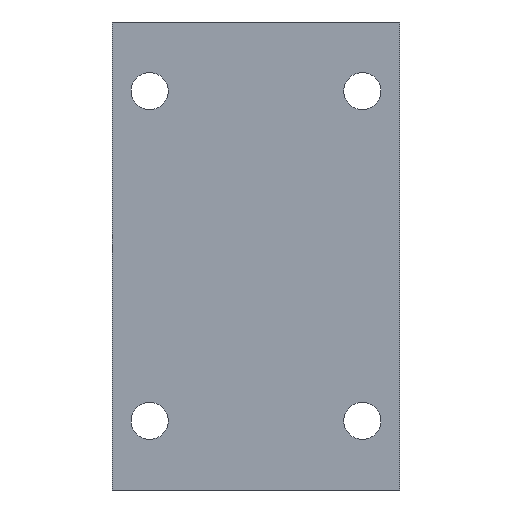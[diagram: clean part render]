
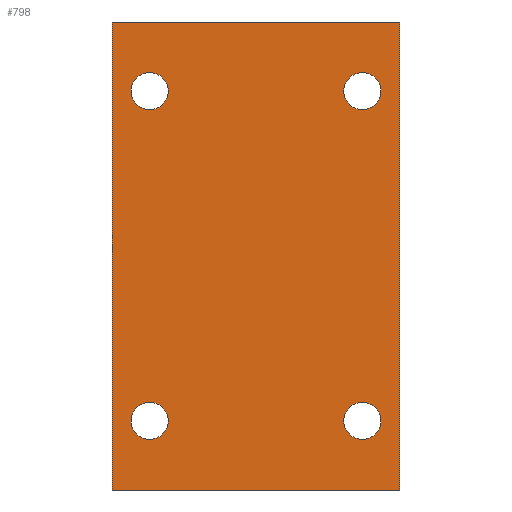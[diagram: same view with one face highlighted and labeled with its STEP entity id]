
A CAD part, front view. The second image highlights one B-rep face of the part: STEP entity #798.
In plain terms, the highlighted planar face has unit normal (0, -1, 0).
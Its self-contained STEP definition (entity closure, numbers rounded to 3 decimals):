
#3 = DIRECTION ( 'NONE',  ( 0., 0., -1. ) ) ;
#29 = DIRECTION ( 'NONE',  ( 0., 0., -1. ) ) ;
#38 = VECTOR ( 'NONE', #2161, 1000. ) ;
#50 = VERTEX_POINT ( 'NONE', #1291 ) ;
#79 = CARTESIAN_POINT ( 'NONE',  ( -40., -38.5, -62. ) ) ;
#88 = AXIS2_PLACEMENT_3D ( 'NONE', #79, #2087, #611 ) ;
#122 = AXIS2_PLACEMENT_3D ( 'NONE', #1069, #1823, #2343 ) ;
#125 = CARTESIAN_POINT ( 'NONE',  ( -54., -38.5, -88. ) ) ;
#148 = PLANE ( 'NONE',  #122 ) ;
#186 = VERTEX_POINT ( 'NONE', #364 ) ;
#193 = DIRECTION ( 'NONE',  ( 0., 0., -1. ) ) ;
#202 = AXIS2_PLACEMENT_3D ( 'NONE', #1894, #1186, #1568 ) ;
#260 = ORIENTED_EDGE ( 'NONE', *, *, #2279, .F. ) ;
#270 = EDGE_CURVE ( 'NONE', #2214, #2173, #1651, .T. ) ;
#311 = VERTEX_POINT ( 'NONE', #1538 ) ;
#320 = VERTEX_POINT ( 'NONE', #1920 ) ;
#325 = ORIENTED_EDGE ( 'NONE', *, *, #1495, .F. ) ;
#336 = ORIENTED_EDGE ( 'NONE', *, *, #270, .F. ) ;
#338 = CARTESIAN_POINT ( 'NONE',  ( 40., -38.5, 69. ) ) ;
#355 = FACE_BOUND ( 'NONE', #970, .T. ) ;
#364 = CARTESIAN_POINT ( 'NONE',  ( 54., -38.5, 88. ) ) ;
#369 = EDGE_CURVE ( 'NONE', #186, #1220, #1884, .T. ) ;
#430 = DIRECTION ( 'NONE',  ( 0., 0., -1. ) ) ;
#445 = EDGE_CURVE ( 'NONE', #320, #186, #595, .T. ) ;
#466 = EDGE_LOOP ( 'NONE', ( #2223, #2159, #1171, #820 ) ) ;
#490 = VECTOR ( 'NONE', #617, 1000. ) ;
#526 = FACE_BOUND ( 'NONE', #2179, .T. ) ;
#535 = EDGE_LOOP ( 'NONE', ( #260, #1687 ) ) ;
#567 = CARTESIAN_POINT ( 'NONE',  ( -40., -38.5, -62. ) ) ;
#595 = LINE ( 'NONE', #793, #490 ) ;
#608 = EDGE_LOOP ( 'NONE', ( #336, #1072 ) ) ;
#611 = DIRECTION ( 'NONE',  ( 0., 0., -1. ) ) ;
#617 = DIRECTION ( 'NONE',  ( 1., 0., 0. ) ) ;
#699 = CARTESIAN_POINT ( 'NONE',  ( -54., -38.5, -88. ) ) ;
#747 = VERTEX_POINT ( 'NONE', #699 ) ;
#753 = EDGE_CURVE ( 'NONE', #747, #1220, #1425, .T. ) ;
#781 = CIRCLE ( 'NONE', #1477, 7. ) ;
#793 = CARTESIAN_POINT ( 'NONE',  ( -54., -38.5, 88. ) ) ;
#798 = ADVANCED_FACE ( 'NONE', ( #355, #897, #1050, #526, #1229 ), #148, .F. ) ;
#820 = ORIENTED_EDGE ( 'NONE', *, *, #1778, .T. ) ;
#822 = AXIS2_PLACEMENT_3D ( 'NONE', #1218, #1571, #978 ) ;
#831 = EDGE_CURVE ( 'NONE', #1919, #2011, #2365, .T. ) ;
#871 = EDGE_CURVE ( 'NONE', #2173, #2214, #1034, .T. ) ;
#897 = FACE_BOUND ( 'NONE', #535, .T. ) ;
#915 = CARTESIAN_POINT ( 'NONE',  ( 54., -38.5, -88. ) ) ;
#947 = DIRECTION ( 'NONE',  ( 0., -1., 0. ) ) ;
#966 = DIRECTION ( 'NONE',  ( 0., 0., -1. ) ) ;
#968 = EDGE_CURVE ( 'NONE', #50, #311, #2284, .T. ) ;
#970 = EDGE_LOOP ( 'NONE', ( #2199, #1583 ) ) ;
#978 = DIRECTION ( 'NONE',  ( 0., 0., -1. ) ) ;
#1034 = CIRCLE ( 'NONE', #1309, 7. ) ;
#1050 = FACE_OUTER_BOUND ( 'NONE', #466, .T. ) ;
#1069 = CARTESIAN_POINT ( 'NONE',  ( -54., -38.5, 88. ) ) ;
#1072 = ORIENTED_EDGE ( 'NONE', *, *, #871, .F. ) ;
#1103 = CARTESIAN_POINT ( 'NONE',  ( 40., -38.5, 62. ) ) ;
#1111 = CIRCLE ( 'NONE', #88, 7. ) ;
#1122 = CARTESIAN_POINT ( 'NONE',  ( 54., -38.5, 88. ) ) ;
#1167 = CARTESIAN_POINT ( 'NONE',  ( -40., -38.5, 69. ) ) ;
#1171 = ORIENTED_EDGE ( 'NONE', *, *, #445, .F. ) ;
#1186 = DIRECTION ( 'NONE',  ( 0., -1., 0. ) ) ;
#1218 = CARTESIAN_POINT ( 'NONE',  ( -40., -38.5, 62. ) ) ;
#1220 = VERTEX_POINT ( 'NONE', #915 ) ;
#1229 = FACE_BOUND ( 'NONE', #608, .T. ) ;
#1244 = VERTEX_POINT ( 'NONE', #1866 ) ;
#1291 = CARTESIAN_POINT ( 'NONE',  ( 40., -38.5, -55. ) ) ;
#1294 = CARTESIAN_POINT ( 'NONE',  ( -40., -38.5, -55. ) ) ;
#1309 = AXIS2_PLACEMENT_3D ( 'NONE', #1103, #1683, #29 ) ;
#1351 = AXIS2_PLACEMENT_3D ( 'NONE', #1459, #1832, #1661 ) ;
#1425 = LINE ( 'NONE', #125, #38 ) ;
#1436 = EDGE_CURVE ( 'NONE', #1729, #1244, #2168, .T. ) ;
#1459 = CARTESIAN_POINT ( 'NONE',  ( -40., -38.5, 62. ) ) ;
#1477 = AXIS2_PLACEMENT_3D ( 'NONE', #1510, #1667, #430 ) ;
#1495 = EDGE_CURVE ( 'NONE', #1244, #1729, #1111, .T. ) ;
#1510 = CARTESIAN_POINT ( 'NONE',  ( 40., -38.5, -62. ) ) ;
#1538 = CARTESIAN_POINT ( 'NONE',  ( 40., -38.5, -69. ) ) ;
#1568 = DIRECTION ( 'NONE',  ( 0., 0., -1. ) ) ;
#1571 = DIRECTION ( 'NONE',  ( 0., -1., 0. ) ) ;
#1583 = ORIENTED_EDGE ( 'NONE', *, *, #831, .F. ) ;
#1651 = CIRCLE ( 'NONE', #2268, 7. ) ;
#1655 = CARTESIAN_POINT ( 'NONE',  ( -54., -38.5, 88. ) ) ;
#1661 = DIRECTION ( 'NONE',  ( 0., 0., -1. ) ) ;
#1667 = DIRECTION ( 'NONE',  ( 0., -1., 0. ) ) ;
#1683 = DIRECTION ( 'NONE',  ( 0., -1., 0. ) ) ;
#1687 = ORIENTED_EDGE ( 'NONE', *, *, #968, .F. ) ;
#1729 = VERTEX_POINT ( 'NONE', #1294 ) ;
#1767 = CARTESIAN_POINT ( 'NONE',  ( -40., -38.5, 55. ) ) ;
#1778 = EDGE_CURVE ( 'NONE', #320, #747, #1864, .T. ) ;
#1823 = DIRECTION ( 'NONE',  ( 0., 1., 0. ) ) ;
#1832 = DIRECTION ( 'NONE',  ( 0., -1., 0. ) ) ;
#1838 = DIRECTION ( 'NONE',  ( 0., -1., 0. ) ) ;
#1856 = CIRCLE ( 'NONE', #822, 7. ) ;
#1864 = LINE ( 'NONE', #1655, #1946 ) ;
#1866 = CARTESIAN_POINT ( 'NONE',  ( -40., -38.5, -69. ) ) ;
#1869 = VECTOR ( 'NONE', #966, 1000. ) ;
#1884 = LINE ( 'NONE', #1122, #1869 ) ;
#1894 = CARTESIAN_POINT ( 'NONE',  ( 40., -38.5, -62. ) ) ;
#1909 = ORIENTED_EDGE ( 'NONE', *, *, #1436, .F. ) ;
#1919 = VERTEX_POINT ( 'NONE', #1167 ) ;
#1920 = CARTESIAN_POINT ( 'NONE',  ( -54., -38.5, 88. ) ) ;
#1945 = AXIS2_PLACEMENT_3D ( 'NONE', #567, #947, #2243 ) ;
#1946 = VECTOR ( 'NONE', #3, 1000. ) ;
#2011 = VERTEX_POINT ( 'NONE', #1767 ) ;
#2029 = CARTESIAN_POINT ( 'NONE',  ( 40., -38.5, 62. ) ) ;
#2032 = EDGE_CURVE ( 'NONE', #2011, #1919, #1856, .T. ) ;
#2087 = DIRECTION ( 'NONE',  ( 0., -1., 0. ) ) ;
#2159 = ORIENTED_EDGE ( 'NONE', *, *, #369, .F. ) ;
#2161 = DIRECTION ( 'NONE',  ( 1., 0., 0. ) ) ;
#2168 = CIRCLE ( 'NONE', #1945, 7. ) ;
#2173 = VERTEX_POINT ( 'NONE', #338 ) ;
#2179 = EDGE_LOOP ( 'NONE', ( #325, #1909 ) ) ;
#2181 = CARTESIAN_POINT ( 'NONE',  ( 40., -38.5, 55. ) ) ;
#2199 = ORIENTED_EDGE ( 'NONE', *, *, #2032, .F. ) ;
#2214 = VERTEX_POINT ( 'NONE', #2181 ) ;
#2223 = ORIENTED_EDGE ( 'NONE', *, *, #753, .T. ) ;
#2243 = DIRECTION ( 'NONE',  ( 0., 0., -1. ) ) ;
#2268 = AXIS2_PLACEMENT_3D ( 'NONE', #2029, #1838, #193 ) ;
#2279 = EDGE_CURVE ( 'NONE', #311, #50, #781, .T. ) ;
#2284 = CIRCLE ( 'NONE', #202, 7. ) ;
#2343 = DIRECTION ( 'NONE',  ( 0., 0., 1. ) ) ;
#2365 = CIRCLE ( 'NONE', #1351, 7. ) ;
